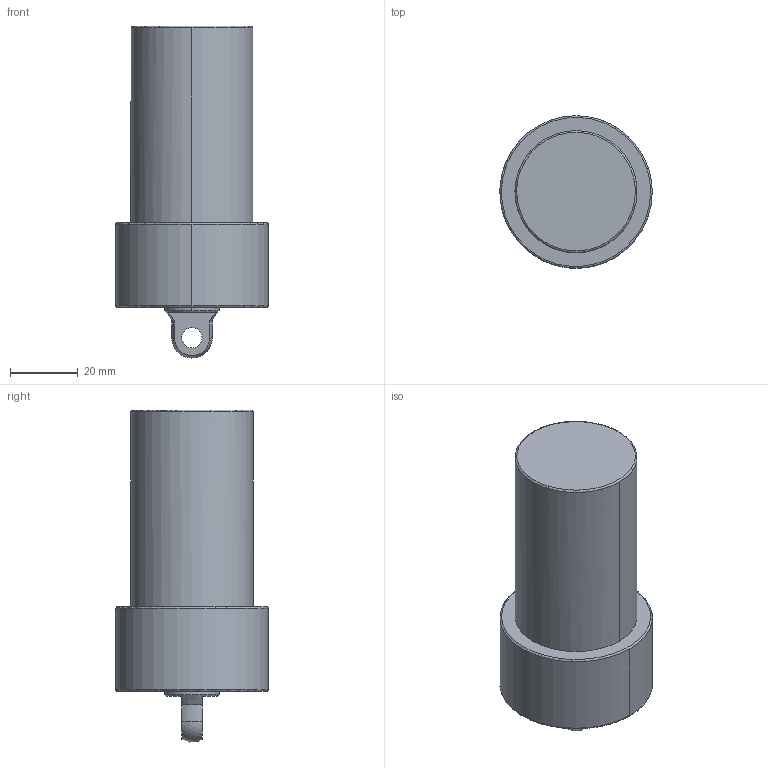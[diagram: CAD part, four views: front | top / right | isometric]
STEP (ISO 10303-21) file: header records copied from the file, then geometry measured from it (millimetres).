
FILE_DESCRIPTION((' '),'2;1');
FILE_NAME( 'TLLU-036GP-050.STEP.stp', '2025-10-24T16:37:09', (' '), ('--- Datakit www.datakit.com---'), ' Datakit CrossCadWare V2024.1 Dec 21 2023', 'Mastercam 2025', ' ');
FILE_SCHEMA(('AUTOMOTIVE_DESIGN { 1 0 10303 214 1 1 1 1 }'));
Length unit declared in the file: millimetre
Products named in the file (1): TLLU-036GP-050
Bounding box: 44.99 x 45 x 97.97 mm (x, y, z)
Volume: 99149.8 mm3; surface area: 14263.7 mm2
Topology: 1 solids, 1 shells, 56 faces, 159 edges, 105 vertices
Faces by surface type: cylinder 22, cone 18, plane 9, torus 6, sphere 1
Entity records: 1872 total; most frequent: DIRECTION 364, CARTESIAN_POINT 325, ORIENTED_EDGE 302, AXIS2_PLACEMENT_3D 160, EDGE_CURVE 151, VERTEX_POINT 105, CIRCLE 103, EDGE_LOOP 66
